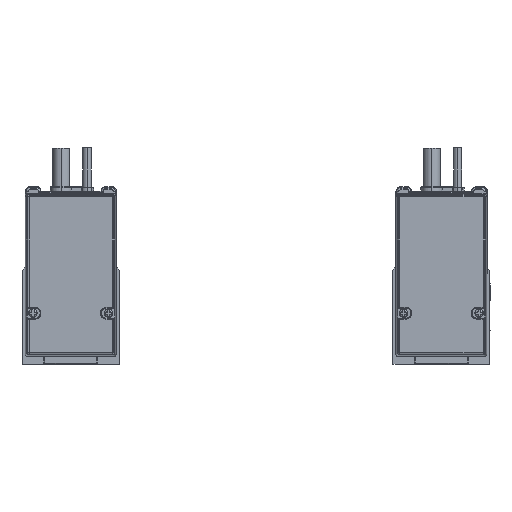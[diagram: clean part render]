
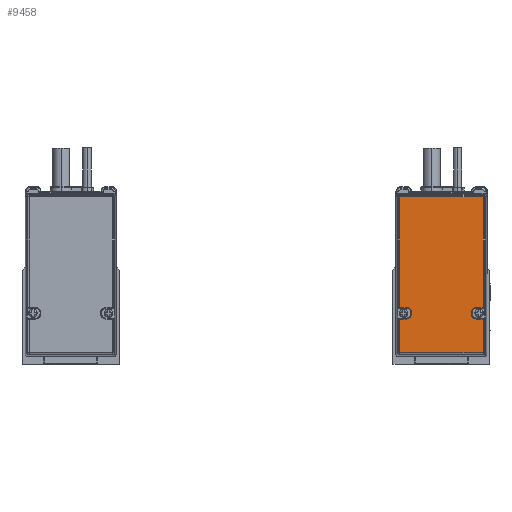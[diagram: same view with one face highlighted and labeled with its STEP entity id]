
A CAD part, left-side view. The second image highlights one B-rep face of the part: STEP entity #9458.
In plain terms, the highlighted planar face has unit normal (-1, 0, 0).
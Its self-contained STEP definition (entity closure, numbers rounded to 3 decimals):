
#9458=ADVANCED_FACE('',(#20540),#20541,.F.);
#20540=FACE_OUTER_BOUND('',#39618,.T.);
#20541=PLANE('',#39619);
#39618=EDGE_LOOP('',(#70375,#70376,#70377,#70378,#70379,#70380,#70381,#70382,#70383,#70384,#70385,#70386,#70387,#70388,#70389,#70390));
#39619=AXIS2_PLACEMENT_3D('',#70391,#70392,#70393);
#70375=ORIENTED_EDGE('',*,*,#91807,.F.);
#70376=ORIENTED_EDGE('',*,*,#99210,.F.);
#70377=ORIENTED_EDGE('',*,*,#99211,.F.);
#70378=ORIENTED_EDGE('',*,*,#91874,.F.);
#70379=ORIENTED_EDGE('',*,*,#97455,.F.);
#70380=ORIENTED_EDGE('',*,*,#99212,.F.);
#70381=ORIENTED_EDGE('',*,*,#92014,.F.);
#70382=ORIENTED_EDGE('',*,*,#99213,.F.);
#70383=ORIENTED_EDGE('',*,*,#99214,.F.);
#70384=ORIENTED_EDGE('',*,*,#99215,.F.);
#70385=ORIENTED_EDGE('',*,*,#93663,.F.);
#70386=ORIENTED_EDGE('',*,*,#89835,.F.);
#70387=ORIENTED_EDGE('',*,*,#99216,.F.);
#70388=ORIENTED_EDGE('',*,*,#93775,.F.);
#70389=ORIENTED_EDGE('',*,*,#99217,.F.);
#70390=ORIENTED_EDGE('',*,*,#96327,.F.);
#70391=CARTESIAN_POINT('',(1511.3,11.59,536.038));
#70392=DIRECTION('',(1.0,0.0,0.0));
#70393=DIRECTION('',(0.0,1.0,0.));
#89835=EDGE_CURVE('',#106501,#106503,#106504,.T.);
#91807=EDGE_CURVE('',#109928,#109930,#109931,.T.);
#91874=EDGE_CURVE('',#110033,#110035,#110036,.T.);
#92014=EDGE_CURVE('',#110268,#110270,#110271,.T.);
#93663=EDGE_CURVE('',#106503,#112971,#112972,.T.);
#93775=EDGE_CURVE('',#113139,#113141,#113142,.T.);
#96327=EDGE_CURVE('',#109930,#116990,#116991,.T.);
#97455=EDGE_CURVE('',#118619,#110033,#118621,.T.);
#99210=EDGE_CURVE('',#121000,#109928,#121001,.T.);
#99211=EDGE_CURVE('',#110035,#121000,#121002,.T.);
#99212=EDGE_CURVE('',#110270,#118619,#121003,.T.);
#99213=EDGE_CURVE('',#121004,#110268,#121005,.T.);
#99214=EDGE_CURVE('',#120692,#121004,#121006,.T.);
#99215=EDGE_CURVE('',#112971,#120692,#121007,.T.);
#99216=EDGE_CURVE('',#113141,#106501,#121008,.T.);
#99217=EDGE_CURVE('',#116990,#113139,#121009,.T.);
#106501=VERTEX_POINT('',#130478);
#106503=VERTEX_POINT('',#130480);
#106504=LINE('',#130481,#130482);
#109928=VERTEX_POINT('',#135131);
#109930=VERTEX_POINT('',#135133);
#109931=LINE('',#135134,#135135);
#110033=VERTEX_POINT('',#135269);
#110035=VERTEX_POINT('',#135271);
#110036=LINE('',#135272,#135273);
#110268=VERTEX_POINT('',#135565);
#110270=VERTEX_POINT('',#135567);
#110271=LINE('',#135568,#135569);
#112971=VERTEX_POINT('',#139571);
#112972=LINE('',#139572,#139573);
#113139=VERTEX_POINT('',#139793);
#113141=VERTEX_POINT('',#139795);
#113142=CIRCLE('',#139796,2.5);
#116990=VERTEX_POINT('',#145383);
#116991=CIRCLE('',#145384,2.5);
#118619=VERTEX_POINT('',#147774);
#118621=LINE('',#147776,#147777);
#120692=VERTEX_POINT('',#150704);
#121000=VERTEX_POINT('',#151125);
#121001=LINE('',#151126,#151127);
#121002=LINE('',#151128,#151129);
#121003=CIRCLE('',#151130,2.5);
#121004=VERTEX_POINT('',#151131);
#121005=CIRCLE('',#151132,2.5);
#121006=LINE('',#151133,#151134);
#121007=LINE('',#151135,#151136);
#121008=LINE('',#151137,#151138);
#121009=LINE('',#151139,#151140);
#130478=CARTESIAN_POINT('',(1511.3,30.9,519.492));
#130480=CARTESIAN_POINT('',(1511.3,30.9,570.666));
#130481=CARTESIAN_POINT('',(1511.3,30.9,538.216));
#130482=VECTOR('',#160515,1.0);
#135131=CARTESIAN_POINT('',(1511.3,30.9,514.092));
#135133=CARTESIAN_POINT('',(1511.3,27.89,514.092));
#135134=CARTESIAN_POINT('',(1511.3,20.34,514.092));
#135135=VECTOR('',#163233,1.0);
#135269=CARTESIAN_POINT('',(1511.3,-7.72,514.092));
#135271=CARTESIAN_POINT('',(1511.3,-7.72,498.482));
#135272=CARTESIAN_POINT('',(1511.3,-7.72,536.038));
#135273=VECTOR('',#163323,1.0);
#135565=CARTESIAN_POINT('',(1511.3,-2.21,516.992));
#135567=CARTESIAN_POINT('',(1511.3,-2.21,516.592));
#135568=CARTESIAN_POINT('',(1511.3,-2.21,526.415));
#135569=VECTOR('',#163562,1.0);
#139571=CARTESIAN_POINT('',(1511.3,-7.72,570.666));
#139572=CARTESIAN_POINT('',(1511.3,10.34,570.666));
#139573=VECTOR('',#165867,1.0);
#139793=CARTESIAN_POINT('',(1511.3,25.39,516.992));
#139795=CARTESIAN_POINT('',(1511.3,27.89,519.492));
#139796=AXIS2_PLACEMENT_3D('',#166014,#166015,#166016);
#145383=CARTESIAN_POINT('',(1511.3,25.39,516.592));
#145384=AXIS2_PLACEMENT_3D('',#169425,#169426,#169427);
#147774=CARTESIAN_POINT('',(1511.3,-4.71,514.092));
#147776=CARTESIAN_POINT('',(1511.3,2.84,514.092));
#147777=VECTOR('',#170865,1.0);
#150704=CARTESIAN_POINT('',(1511.3,-7.72,519.492));
#151125=CARTESIAN_POINT('',(1511.3,30.9,498.482));
#151126=CARTESIAN_POINT('',(1511.3,30.9,538.216));
#151127=VECTOR('',#173008,1.0);
#151128=CARTESIAN_POINT('',(1511.3,11.59,498.482));
#151129=VECTOR('',#173009,1.0);
#151130=AXIS2_PLACEMENT_3D('',#173010,#173011,#173012);
#151131=CARTESIAN_POINT('',(1511.3,-4.71,519.492));
#151132=AXIS2_PLACEMENT_3D('',#173013,#173014,#173015);
#151133=CARTESIAN_POINT('',(1511.3,2.84,519.492));
#151134=VECTOR('',#173016,1.0);
#151135=CARTESIAN_POINT('',(1511.3,-7.72,536.038));
#151136=VECTOR('',#173017,1.0);
#151137=CARTESIAN_POINT('',(1511.3,20.34,519.492));
#151138=VECTOR('',#173018,1.0);
#151139=CARTESIAN_POINT('',(1511.3,25.39,526.415));
#151140=VECTOR('',#173019,1.0);
#160515=DIRECTION('',(0.0,0.,1.0));
#163233=DIRECTION('',(0.0,-1.0,0.0));
#163323=DIRECTION('',(0.0,0.,-1.0));
#163562=DIRECTION('',(0.0,0.0,-1.0));
#165867=DIRECTION('',(0.0,-1.0,0.0));
#166014=CARTESIAN_POINT('',(1511.3,27.89,516.992));
#166015=DIRECTION('',(-1.0,0.0,0.0));
#166016=DIRECTION('',(0.0,-0.707,0.707));
#169425=CARTESIAN_POINT('',(1511.3,27.89,516.592));
#169426=DIRECTION('',(-1.0,0.0,0.0));
#169427=DIRECTION('',(0.0,-0.707,-0.707));
#170865=DIRECTION('',(0.0,-1.0,0.0));
#173008=DIRECTION('',(0.0,0.,1.0));
#173009=DIRECTION('',(0.0,1.0,0.0));
#173010=CARTESIAN_POINT('',(1511.3,-4.71,516.592));
#173011=DIRECTION('',(-1.0,0.0,0.0));
#173012=DIRECTION('',(0.0,0.707,-0.707));
#173013=CARTESIAN_POINT('',(1511.3,-4.71,516.992));
#173014=DIRECTION('',(-1.0,0.0,0.0));
#173015=DIRECTION('',(0.0,0.707,0.707));
#173016=DIRECTION('',(0.0,1.0,0.0));
#173017=DIRECTION('',(0.0,0.,-1.0));
#173018=DIRECTION('',(0.0,1.0,0.0));
#173019=DIRECTION('',(0.0,0.0,1.0));
